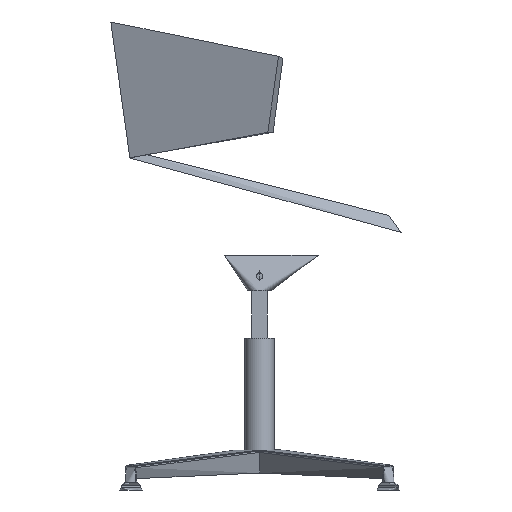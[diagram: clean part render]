
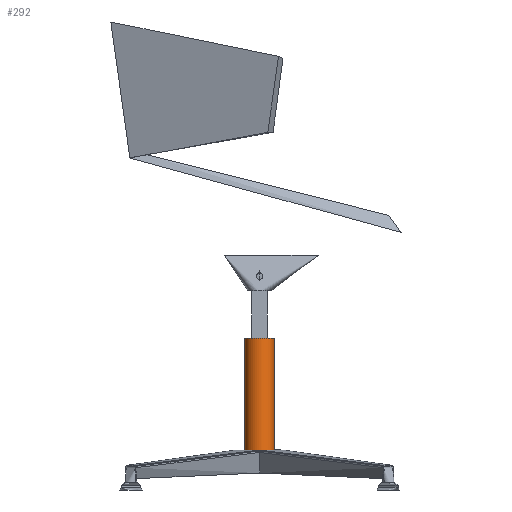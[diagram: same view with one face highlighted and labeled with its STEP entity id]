
A CAD part, left-side view. The second image highlights one B-rep face of the part: STEP entity #292.
In plain terms, the highlighted free-form (B-spline) face has degree [2, 1] with [5, 2] control points.
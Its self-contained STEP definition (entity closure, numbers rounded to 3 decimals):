
#292=ADVANCED_FACE('',(#402),#1502,.T.);
#402=FACE_OUTER_BOUND('',#512,.T.);
#512=EDGE_LOOP('',(#862,#863,#864,#865));
#862=ORIENTED_EDGE('',*,*,#1147,.T.);
#863=ORIENTED_EDGE('',*,*,#1146,.F.);
#864=ORIENTED_EDGE('',*,*,#1145,.F.);
#865=ORIENTED_EDGE('',*,*,#1144,.T.);
#1144=EDGE_CURVE('',#1427,#1428,#1278,.T.);
#1145=EDGE_CURVE('',#1427,#1426,#1279,.T.);
#1146=EDGE_CURVE('',#1426,#1429,#1280,.T.);
#1147=EDGE_CURVE('',#1428,#1429,#1281,.T.);
#1278=(
BOUNDED_CURVE()
B_SPLINE_CURVE(2,(#6268,#6269,#6270,#6271,#6272),.UNSPECIFIED.,.F.,.F.)
B_SPLINE_CURVE_WITH_KNOTS((3,2,3),(0.,39.27,78.54),
 .UNSPECIFIED.)
CURVE()
GEOMETRIC_REPRESENTATION_ITEM()
RATIONAL_B_SPLINE_CURVE((1.,0.707,1.,0.707,1.))
REPRESENTATION_ITEM('')
);
#1279=(
BOUNDED_CURVE()
B_SPLINE_CURVE(1,(#6273,#6274),.UNSPECIFIED.,.F.,.F.)
B_SPLINE_CURVE_WITH_KNOTS((2,2),(0.,200.),.UNSPECIFIED.)
CURVE()
GEOMETRIC_REPRESENTATION_ITEM()
RATIONAL_B_SPLINE_CURVE((1.,1.))
REPRESENTATION_ITEM('')
);
#1280=(
BOUNDED_CURVE()
B_SPLINE_CURVE(2,(#6275,#6276,#6277,#6278,#6279),.UNSPECIFIED.,.F.,.F.)
B_SPLINE_CURVE_WITH_KNOTS((3,2,3),(0.,39.27,78.54),
 .UNSPECIFIED.)
CURVE()
GEOMETRIC_REPRESENTATION_ITEM()
RATIONAL_B_SPLINE_CURVE((1.,0.707,1.,0.707,1.))
REPRESENTATION_ITEM('')
);
#1281=(
BOUNDED_CURVE()
B_SPLINE_CURVE(1,(#6280,#6281),.UNSPECIFIED.,.F.,.F.)
B_SPLINE_CURVE_WITH_KNOTS((2,2),(0.,200.),.UNSPECIFIED.)
CURVE()
GEOMETRIC_REPRESENTATION_ITEM()
RATIONAL_B_SPLINE_CURVE((1.,1.))
REPRESENTATION_ITEM('')
);
#1426=VERTEX_POINT('',#6264);
#1427=VERTEX_POINT('',#6265);
#1428=VERTEX_POINT('',#6266);
#1429=VERTEX_POINT('',#6267);
#1502=(
BOUNDED_SURFACE()
B_SPLINE_SURFACE(2,1,((#6244,#6245),(#6246,#6247),(#6248,#6249),(#6250,
#6251),(#6252,#6253)),.UNSPECIFIED.,.F.,.F.,.F.)
B_SPLINE_SURFACE_WITH_KNOTS((3,2,3),(2,2),(0.,39.27,78.54),
(0.,200.),.UNSPECIFIED.)
GEOMETRIC_REPRESENTATION_ITEM()
RATIONAL_B_SPLINE_SURFACE(((1.,1.),(0.707,0.707),
(1.,1.),(0.707,0.707),(1.,1.)))
REPRESENTATION_ITEM('')
SURFACE()
);
#6244=CARTESIAN_POINT('',(0.,25.,59.087));
#6245=CARTESIAN_POINT('',(0.,25.,259.087));
#6246=CARTESIAN_POINT('',(-25.,25.,59.087));
#6247=CARTESIAN_POINT('',(-25.,25.,259.087));
#6248=CARTESIAN_POINT('',(-25.,0.,59.087));
#6249=CARTESIAN_POINT('',(-25.,0.,259.087));
#6250=CARTESIAN_POINT('',(-25.,-25.,59.087));
#6251=CARTESIAN_POINT('',(-25.,-25.,259.087));
#6252=CARTESIAN_POINT('',(0.,-25.,59.087));
#6253=CARTESIAN_POINT('',(0.,-25.,259.087));
#6264=CARTESIAN_POINT('',(0.,25.,259.087));
#6265=CARTESIAN_POINT('',(0.,25.,59.087));
#6266=CARTESIAN_POINT('',(0.,-25.,59.087));
#6267=CARTESIAN_POINT('',(0.,-25.,259.087));
#6268=CARTESIAN_POINT('',(0.,25.,59.087));
#6269=CARTESIAN_POINT('',(-25.,25.,59.087));
#6270=CARTESIAN_POINT('',(-25.,0.,59.087));
#6271=CARTESIAN_POINT('',(-25.,-25.,59.087));
#6272=CARTESIAN_POINT('',(0.,-25.,59.087));
#6273=CARTESIAN_POINT('',(0.,25.,59.087));
#6274=CARTESIAN_POINT('',(0.,25.,259.087));
#6275=CARTESIAN_POINT('',(0.,25.,259.087));
#6276=CARTESIAN_POINT('',(-25.,25.,259.087));
#6277=CARTESIAN_POINT('',(-25.,0.,259.087));
#6278=CARTESIAN_POINT('',(-25.,-25.,259.087));
#6279=CARTESIAN_POINT('',(0.,-25.,259.087));
#6280=CARTESIAN_POINT('',(0.,-25.,59.087));
#6281=CARTESIAN_POINT('',(0.,-25.,259.087));
